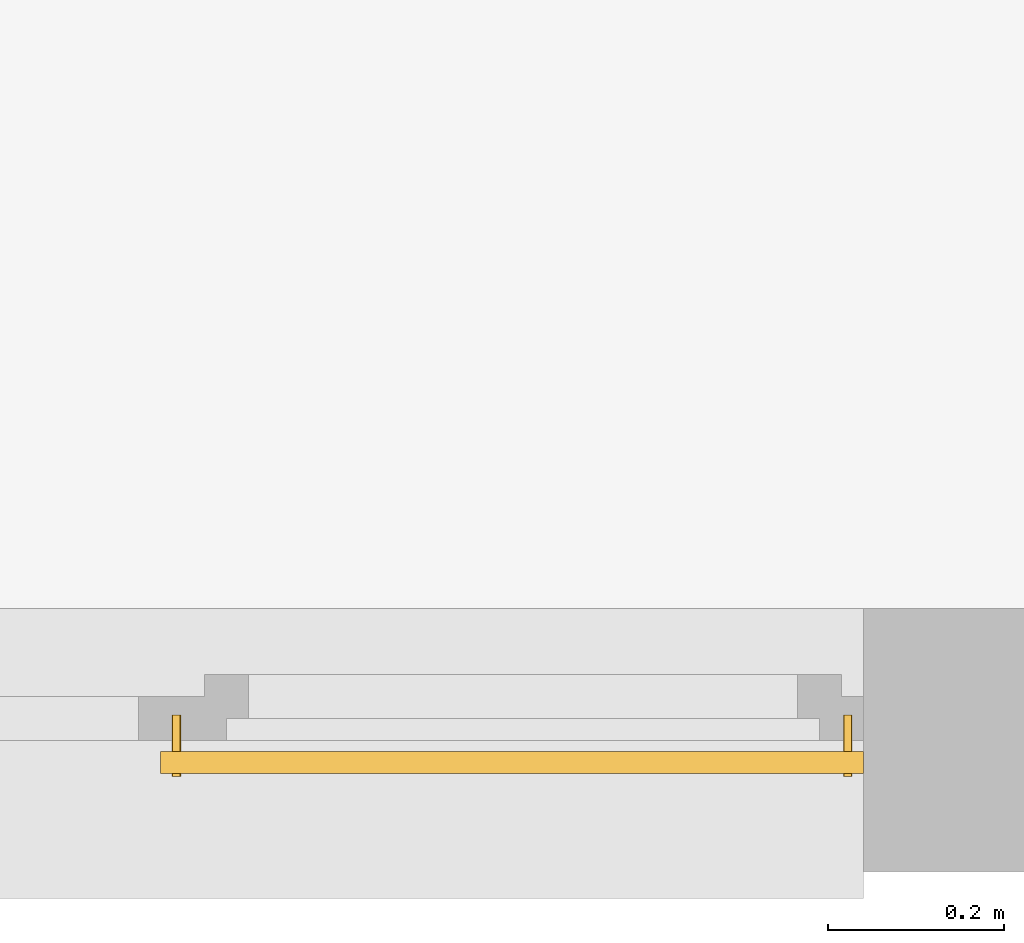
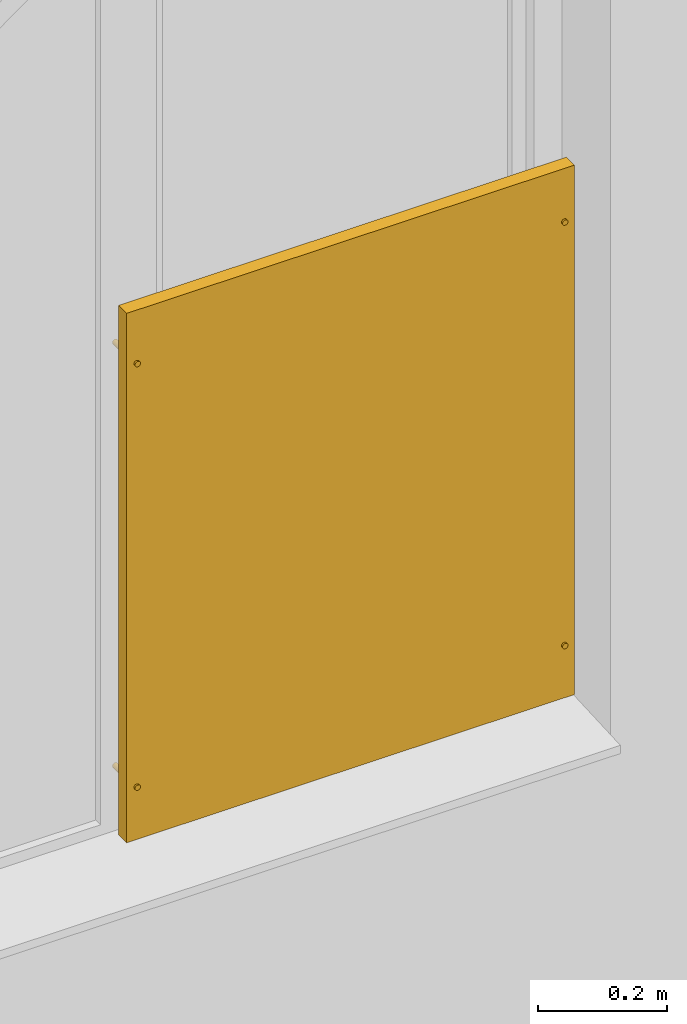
# One storey, part 5 of 8: 1 railing.
"""IFC2X3 building model written with IfcOpenShell, lengths in millimetres."""

import ifcopenshell
import ifcopenshell.guid

model = None  # the IFC model being written
_history = None  # IfcOwnerHistory: only IFC2X3 demands one
_inside = {}  # id of a spatial element -> (the spatial element, [elements in it])
_under = {}  # id of a project, library or spatial element -> (it, [spatial elements below it])
_declared = {}  # id of a project -> (the project, [libraries it declares])
_typed = {}  # id of a type object -> (the type object, [elements of that type])
_made_of = {}  # id of a material, layer set ... -> (it, [elements and type objects made of it])


def new_model(schema):
    """Start an empty IFC model of exactly this schema.

    Asked for "IFC4X3", IfcOpenShell would pick the latest addendum, in which some entities
    have other attributes; the version numbers below select the first issue.
    IFC2X3 requires an IfcOwnerHistory on every rooted entity: one is made here for all.
    """
    global model, _history
    if schema == "IFC4X3":
        model = ifcopenshell.file(schema_version=(4, 3, 0, 0))
    else:
        model = ifcopenshell.file(schema=schema)
    _inside.clear()
    _under.clear()
    _declared.clear()
    _typed.clear()
    _made_of.clear()
    _history = None
    if model.schema == "IFC2X3":
        org = make("IfcOrganization", Name="unknown")
        user = make(
            "IfcPersonAndOrganization",
            ThePerson=make("IfcPerson", FamilyName="unknown"),
            TheOrganization=org,
        )
        app = make(
            "IfcApplication",
            ApplicationDeveloper=org,
            Version="unknown",
            ApplicationFullName="unknown",
            ApplicationIdentifier="unknown",
        )
        _history = make(
            "IfcOwnerHistory",
            OwningUser=user,
            OwningApplication=app,
            ChangeAction="ADDED",
            CreationDate=0,
        )
    return model


def make(cls, **values):
    """One entity of the class cls with the attributes given. An attribute that is None is left unset."""
    return model.create_entity(
        cls, **{name: value for name, value in values.items() if value is not None}
    )


def entity(cls, *values):
    """Any entity or typed value of the class cls, its attributes in the order of the schema. None: left unset."""
    e = model.create_entity(cls)
    for i, value in enumerate(values):
        if value is not None:
            e[i] = value
    return e


def rooted(cls, **values):
    """An entity with a GlobalId (a new one), such as an element, a storey or a relation."""
    return make(cls, GlobalId=ifcopenshell.guid.new(), OwnerHistory=_history, **values)


def si_unit(unit_type, name, prefix=None):
    """IfcSIUnit, for example si_unit("LENGTHUNIT", "METRE", prefix="MILLI")."""
    return make("IfcSIUnit", UnitType=unit_type, Prefix=prefix, Name=name)


def converted_unit(unit_type, name, factor, base, dimensions=None, offset=None):
    """IfcConversionBasedUnit, such as the inch: factor (a typed value) times the base unit."""
    return make(
        "IfcConversionBasedUnit"
        if offset is None
        else "IfcConversionBasedUnitWithOffset",
        ConversionOffset=offset,
        Dimensions=None
        if dimensions is None
        else entity("IfcDimensionalExponents", *dimensions),
        UnitType=unit_type,
        Name=name,
        ConversionFactor=make(
            "IfcMeasureWithUnit", ValueComponent=factor, UnitComponent=base
        ),
    )


def derived_unit(unit_type, elements):
    """IfcDerivedUnit: a product of units, each with its exponent."""
    return make(
        "IfcDerivedUnit",
        Elements=[
            make("IfcDerivedUnitElement", Unit=unit, Exponent=power)
            for unit, power in elements
        ],
        UnitType=unit_type,
    )


def money_unit(currency):
    """IfcMonetaryUnit."""
    return make("IfcMonetaryUnit", Currency=currency)


def assignment(units):
    """IfcUnitAssignment: the units of a project."""
    return None if units is None else make("IfcUnitAssignment", Units=units)


def point(xyz):
    """IfcCartesianPoint."""
    return None if xyz is None else make("IfcCartesianPoint", Coordinates=xyz)


def direction(xyz):
    """IfcDirection."""
    return None if xyz is None else make("IfcDirection", DirectionRatios=xyz)


def frame(location, z_axis=None, x_axis=None):
    """IfcAxis2Placement3D, a coordinate frame: its origin and axes. An axis left out is left unset."""
    return make(
        "IfcAxis2Placement3D",
        Location=point(location),
        Axis=direction(z_axis),
        RefDirection=direction(x_axis),
    )


def origin_with_axes():
    """The frame at (0, 0, 0) with the z axis (0, 0, 1) and the x axis (1, 0, 0) written out."""
    return frame((0.0, 0.0, 0.0), z_axis=(0.0, 0.0, 1.0), x_axis=(1.0, 0.0, 0.0))


def place(relative_to, where):
    """IfcLocalPlacement: puts the frame where relative to a parent placement (None: the world)."""
    return make(
        "IfcLocalPlacement", PlacementRelTo=relative_to, RelativePlacement=where
    )


def context(
    kind, dimensions, precision=None, world=None, true_north=None, identifier=None
):
    """IfcGeometricRepresentationContext, for example the 3D "Model" context."""
    return make(
        "IfcGeometricRepresentationContext",
        ContextIdentifier=identifier,
        ContextType=kind,
        CoordinateSpaceDimension=dimensions,
        Precision=precision,
        WorldCoordinateSystem=world,
        TrueNorth=true_north,
    )


def subcontext(parent, identifier, kind, view, scale=None):
    """IfcGeometricRepresentationSubContext, for example "Body" below "Model"."""
    return make(
        "IfcGeometricRepresentationSubContext",
        ContextIdentifier=identifier,
        ContextType=kind,
        ParentContext=parent,
        TargetScale=scale,
        TargetView=view,
    )


def project(units=None, contexts=None):
    """IfcProject with its units and contexts."""
    return rooted(
        "IfcProject",
        Name="project",
        RepresentationContexts=contexts,
        UnitsInContext=assignment(units),
    )


def spatial(cls, under=None, at=None, **own):
    """A site, building, storey or space (cls), placed at a placement, below another one or the project."""
    s = rooted(cls, ObjectPlacement=at, **own)
    if under is not None:
        _under.setdefault(under.id(), (under, []))[1].append(s)
    return s


def faces_of(points, faces, orient=None, outer=None):
    """IfcFace entities. A face is a list of loops; a loop is a list of indices into points, from 0.

    orient and outer hold one flag for each loop. By default every Orientation is true, the
    first loop of a face is its IfcFaceOuterBound and the others are IfcFaceBound.
    """
    made = []
    for i, loops in enumerate(faces):
        bounds = []
        for j, loop in enumerate(loops):
            is_outer = j == 0 if outer is None else outer[i][j]
            bounds.append(
                make(
                    "IfcFaceOuterBound" if is_outer else "IfcFaceBound",
                    Bound=make("IfcPolyLoop", Polygon=[points[k] for k in loop]),
                    Orientation=True if orient is None else orient[i][j],
                )
            )
        made.append(make("IfcFace", Bounds=bounds))
    return made


def faceted_brep(points, faces, orient=None, outer=None, voids=None):
    """IfcFacetedBrep: a solid bounded by flat faces; with voids (closed shells), ...WithVoids."""
    shared = [point(p) for p in points]
    hull = make("IfcClosedShell", CfsFaces=faces_of(shared, faces, orient, outer))
    if voids is None:
        return make("IfcFacetedBrep", Outer=hull)
    return make(
        "IfcFacetedBrepWithVoids",
        Outer=hull,
        Voids=[
            make(cls, CfsFaces=faces_of(shared, fs, o, b)) for cls, fs, o, b in voids
        ],
    )


def shape(context_of_items, identifier, shape_type, items):
    """IfcShapeRepresentation: the items that make up one representation, for example the "Body"."""
    return make(
        "IfcShapeRepresentation",
        ContextOfItems=context_of_items,
        RepresentationIdentifier=identifier,
        RepresentationType=shape_type,
        Items=items,
    )


def material(Name=None, Category=None):
    """IfcMaterial."""
    return make("IfcMaterial", Name=Name, Category=Category)


def material_list(materials):
    """IfcMaterialList."""
    return make("IfcMaterialList", Materials=materials)


def made_of(thing, what):
    """Note that an element or type object is made of a material, layer set ...; save() writes the relation."""
    if what is not None:
        _made_of.setdefault(what.id(), (what, []))[1].append(thing)
    return thing


def type_object(cls, material=None, **own):
    """A type object (cls), such as IfcWallType, which elements share."""
    return made_of(rooted(cls, **own), material)


def element(
    cls,
    number,
    at=None,
    inside=None,
    cuts=None,
    type_object=None,
    material=None,
    context=None,
    identifier="Body",
    shape_type=None,
    held_by="IfcProductDefinitionShape",
    body=None,
    shapes=None,
    **own,
):
    """One element of the class cls, such as IfcWall. Its Tag is "e" and its number.

    at: its placement. inside: the storey or other place that contains it. cuts: it is an
    opening in that element (IfcRelVoidsElement). A single representation is given by context,
    identifier, shape_type and body (its items); several are given by shapes. held_by: the class
    of the entity that holds the representations. save() writes the other relations.
    """
    e = rooted(cls, Tag="e%d" % number, ObjectPlacement=at, **own)
    if body is not None:
        shapes = [shape(context, identifier, shape_type, body)]
    if shapes is not None:
        e.Representation = make(held_by, Representations=shapes)
    if inside is not None:
        _inside.setdefault(inside.id(), (inside, []))[1].append(e)
    if cuts is not None:
        rooted(
            "IfcRelVoidsElement", RelatingBuildingElement=cuts, RelatedOpeningElement=e
        )
    if type_object is not None:
        _typed.setdefault(type_object.id(), (type_object, []))[1].append(e)
    return made_of(e, material)


def aggregate(whole, parts):
    """IfcRelAggregates: a whole, such as a stair, and the parts it consists of."""
    return rooted("IfcRelAggregates", RelatingObject=whole, RelatedObjects=parts)


def save(model, path):
    """Write the relations noted so far, then the file.

    IfcRelAggregates (storeys below a building ...), IfcRelContainedInSpatialStructure (elements
    in a storey), IfcRelDefinesByType, IfcRelAssociatesMaterial and IfcRelDeclares: one each for
    every whole, place, type object, material and project.
    """
    for whole, parts in _under.values():
        aggregate(whole, parts)
    for where, things in _inside.values():
        rooted(
            "IfcRelContainedInSpatialStructure",
            RelatedElements=things,
            RelatingStructure=where,
        )
    for kind, things in _typed.values():
        rooted("IfcRelDefinesByType", RelatedObjects=things, RelatingType=kind)
    for what, things in _made_of.values():
        rooted("IfcRelAssociatesMaterial", RelatedObjects=things, RelatingMaterial=what)
    for by, libraries in _declared.values():
        rooted("IfcRelDeclares", RelatingContext=by, RelatedDefinitions=libraries)
    model.write(path)


model = new_model("IFC2X3")

# Units and contexts
model_context = context("Model", 3, precision=1e-05, world=origin_with_axes(), true_north=direction((0.0, 1.0)))
body_context = subcontext(model_context, "Body", "Model", "MODEL_VIEW")
ifc_project = project(units=[si_unit("LENGTHUNIT", "METRE", prefix="MILLI"), si_unit("AREAUNIT", "SQUARE_METRE"), si_unit("VOLUMEUNIT", "CUBIC_METRE"), converted_unit("PLANEANGLEUNIT", "DEGREE", entity("IfcPlaneAngleMeasure", 0.0174532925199), si_unit("PLANEANGLEUNIT", "RADIAN"), dimensions=[0, 0, 0, 0, 0, 0, 0]), si_unit("SOLIDANGLEUNIT", "STERADIAN"), money_unit("USD"), converted_unit("TIMEUNIT", "Year", entity("IfcTimeMeasure", 31556926.0), si_unit("TIMEUNIT", "SECOND"), dimensions=[0, 0, 1, 0, 0, 0, 0]), si_unit("MASSUNIT", "GRAM", prefix="KILO"), si_unit("THERMODYNAMICTEMPERATUREUNIT", "DEGREE_CELSIUS"), si_unit("LUMINOUSINTENSITYUNIT", "LUMEN"), si_unit("ENERGYUNIT", "JOULE", prefix="MEGA"), derived_unit("THERMALCONDUCTANCEUNIT", [(si_unit("POWERUNIT", "WATT"), 1), (si_unit("LENGTHUNIT", "METRE"), -1), (si_unit("THERMODYNAMICTEMPERATUREUNIT", "KELVIN"), -1)]), derived_unit("SPECIFICHEATCAPACITYUNIT", [(si_unit("ENERGYUNIT", "JOULE"), 1), (si_unit("MASSUNIT", "GRAM", prefix="KILO"), -1), (si_unit("THERMODYNAMICTEMPERATUREUNIT", "KELVIN"), -1)]), derived_unit("MASSDENSITYUNIT", [(si_unit("MASSUNIT", "GRAM", prefix="KILO"), 1), (si_unit("VOLUMEUNIT", "CUBIC_METRE"), -1)])], contexts=[model_context])

# Site, building, storey
site_placement = place(None, origin_with_axes())
site = spatial("IfcSite", under=ifc_project, at=site_placement, Name="Site", CompositionType="ELEMENT")
building_placement = place(site_placement, origin_with_axes())
building = spatial("IfcBuilding", under=site, at=building_placement, Name="Building", CompositionType="ELEMENT")
storey_placement = place(building_placement, origin_with_axes())
storey = spatial("IfcBuildingStorey", under=building, at=storey_placement, Name="Ground Floor", CompositionType="ELEMENT", Elevation=0.0)

# Railing
ifc_material = material(Name="Aluminium")
ifc_material_list = material_list([ifc_material, ifc_material, ifc_material, ifc_material, ifc_material, ifc_material])
railing_type = type_object("IfcRailingType", Name="Railing Type", PredefinedType="NOTDEFINED")
railing_placement = place(storey_placement, frame((-20307.1700511, 1857.32727174, 530.0), z_axis=(0.0, 0.0, 1.0), x_axis=(0.0, 1.0, 0.0)))
element("IfcRailing", 1, at=railing_placement, inside=storey, type_object=railing_type, material=ifc_material_list, Name="F-Line NORDKAPP 1,0m", PredefinedType="NOTDEFINED", context=body_context, shape_type="Brep", body=[
    faceted_brep([(-29.0, 791.5, 991.5), (-29.0, 791.5, 8.5), (-29.0, 8.5, 8.5), (-29.0, 8.5, 991.5), (-21.0, 791.5, 991.5), (-21.0, 791.5, 8.5), (-21.0, 8.5, 8.5), (-21.0, 8.5, 991.5)], [[[0, 1, 2, 3]], [[1, 0, 4, 5]], [[6, 2, 1, 5]], [[7, 3, 2, 6]], [[0, 3, 7, 4]], [[6, 5, 4, 7]]]),
    faceted_brep([(-41.0, 22.9240387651, 100.868240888), (29.0, 22.9240387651, 100.868240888), (29.0, 22.9240387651, 99.1317591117), (-41.0, 22.9240387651, 99.1317591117), (-41.0, 22.6984631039, 101.710100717), (29.0, 22.6984631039, 101.710100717), (29.0, 22.3301270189, 102.5), (29.0, 21.8302222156, 103.213938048), (29.0, 21.2139380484, 103.830222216), (29.0, 20.5, 104.330127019), (29.0, 19.7101007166, 104.698463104), (29.0, 18.8682408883, 104.924038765), (29.0, 18.0, 105.0), (29.0, 17.1317591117, 104.924038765), (29.0, 16.2898992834, 104.698463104), (29.0, 15.5, 104.330127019), (29.0, 14.7860619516, 103.830222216), (29.0, 14.1697777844, 103.213938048), (29.0, 13.6698729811, 102.5), (29.0, 13.3015368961, 101.710100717), (29.0, 13.0759612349, 100.868240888), (29.0, 13.0, 100.0), (29.0, 13.0759612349, 99.1317591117), (29.0, 13.3015368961, 98.2898992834), (29.0, 13.6698729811, 97.5), (29.0, 14.1697777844, 96.7860619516), (29.0, 14.7860619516, 96.1697777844), (29.0, 15.5, 95.6698729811), (29.0, 16.2898992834, 95.3015368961), (29.0, 17.1317591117, 95.0759612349), (29.0, 18.0, 95.0), (29.0, 18.8682408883, 95.0759612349), (29.0, 19.7101007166, 95.3015368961), (29.0, 20.5, 95.6698729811), (29.0, 21.2139380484, 96.1697777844), (29.0, 21.8302222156, 96.7860619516), (29.0, 22.3301270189, 97.5), (29.0, 22.6984631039, 98.2898992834), (-41.0, 22.6984631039, 98.2898992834), (-41.0, 22.3301270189, 97.5), (-41.0, 21.8302222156, 96.7860619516), (-41.0, 21.2139380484, 96.1697777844), (-41.0, 20.5, 95.6698729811), (-41.0, 19.7101007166, 95.3015368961), (-41.0, 18.8682408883, 95.0759612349), (-41.0, 18.0, 95.0), (-41.0, 17.1317591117, 95.0759612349), (-41.0, 16.2898992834, 95.3015368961), (-41.0, 15.5, 95.6698729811), (-41.0, 14.7860619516, 96.1697777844), (-41.0, 14.1697777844, 96.7860619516), (-41.0, 13.6698729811, 97.5), (-41.0, 13.3015368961, 98.2898992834), (-41.0, 13.0759612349, 99.1317591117), (-41.0, 13.0, 100.0), (-41.0, 13.0759612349, 100.868240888), (-41.0, 13.3015368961, 101.710100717), (-41.0, 13.6698729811, 102.5), (-41.0, 14.1697777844, 103.213938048), (-41.0, 14.7860619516, 103.830222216), (-41.0, 15.5, 104.330127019), (-41.0, 16.2898992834, 104.698463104), (-41.0, 17.1317591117, 104.924038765), (-41.0, 18.0, 105.0), (-41.0, 18.8682408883, 104.924038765), (-41.0, 19.7101007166, 104.698463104), (-41.0, 20.5, 104.330127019), (-41.0, 21.2139380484, 103.830222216), (-41.0, 21.8302222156, 103.213938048), (-41.0, 22.3301270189, 102.5)], [[[0, 1, 2, 3]], [[4, 5, 1, 0]], [[1, 5, 6, 7, 8, 9, 10, 11, 12, 13, 14, 15, 16, 17, 18, 19, 20, 21, 22, 23, 24, 25, 26, 27, 28, 29, 30, 31, 32, 33, 34, 35, 36, 37, 2]], [[3, 2, 37, 38]], [[0, 3, 38, 39, 40, 41, 42, 43, 44, 45, 46, 47, 48, 49, 50, 51, 52, 53, 54, 55, 56, 57, 58, 59, 60, 61, 62, 63, 64, 65, 66, 67, 68, 69, 4]], [[69, 6, 5, 4]], [[68, 7, 6, 69]], [[67, 8, 7, 68]], [[66, 9, 8, 67]], [[65, 10, 9, 66]], [[64, 11, 10, 65]], [[63, 12, 11, 64]], [[62, 13, 12, 63]], [[61, 14, 13, 62]], [[60, 15, 14, 61]], [[59, 16, 15, 60]], [[58, 17, 16, 59]], [[57, 18, 17, 58]], [[56, 19, 18, 57]], [[55, 20, 19, 56]], [[54, 21, 20, 55]], [[53, 22, 21, 54]], [[52, 23, 22, 53]], [[51, 24, 23, 52]], [[50, 25, 24, 51]], [[49, 26, 25, 50]], [[48, 27, 26, 49]], [[47, 28, 27, 48]], [[46, 29, 28, 47]], [[45, 30, 29, 46]], [[44, 31, 30, 45]], [[43, 32, 31, 44]], [[42, 33, 32, 43]], [[41, 34, 33, 42]], [[40, 35, 34, 41]], [[39, 36, 35, 40]], [[38, 37, 36, 39]]]),
    faceted_brep([(-41.0, 22.9240387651, 900.868240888), (29.0, 22.9240387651, 900.868240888), (29.0, 22.9240387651, 899.131759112), (-41.0, 22.9240387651, 899.131759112), (-41.0, 22.6984631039, 901.710100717), (29.0, 22.6984631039, 901.710100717), (29.0, 22.3301270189, 902.5), (29.0, 21.8302222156, 903.213938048), (29.0, 21.2139380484, 903.830222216), (29.0, 20.5, 904.330127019), (29.0, 19.7101007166, 904.698463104), (29.0, 18.8682408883, 904.924038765), (29.0, 18.0, 905.0), (29.0, 17.1317591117, 904.924038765), (29.0, 16.2898992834, 904.698463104), (29.0, 15.5, 904.330127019), (29.0, 14.7860619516, 903.830222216), (29.0, 14.1697777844, 903.213938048), (29.0, 13.6698729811, 902.5), (29.0, 13.3015368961, 901.710100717), (29.0, 13.0759612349, 900.868240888), (29.0, 13.0, 900.0), (29.0, 13.0759612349, 899.131759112), (29.0, 13.3015368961, 898.289899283), (29.0, 13.6698729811, 897.5), (29.0, 14.1697777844, 896.786061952), (29.0, 14.7860619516, 896.169777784), (29.0, 15.5, 895.669872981), (29.0, 16.2898992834, 895.301536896), (29.0, 17.1317591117, 895.075961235), (29.0, 18.0, 895.0), (29.0, 18.8682408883, 895.075961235), (29.0, 19.7101007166, 895.301536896), (29.0, 20.5, 895.669872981), (29.0, 21.2139380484, 896.169777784), (29.0, 21.8302222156, 896.786061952), (29.0, 22.3301270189, 897.5), (29.0, 22.6984631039, 898.289899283), (-41.0, 22.6984631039, 898.289899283), (-41.0, 22.3301270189, 897.5), (-41.0, 21.8302222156, 896.786061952), (-41.0, 21.2139380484, 896.169777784), (-41.0, 20.5, 895.669872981), (-41.0, 19.7101007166, 895.301536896), (-41.0, 18.8682408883, 895.075961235), (-41.0, 18.0, 895.0), (-41.0, 17.1317591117, 895.075961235), (-41.0, 16.2898992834, 895.301536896), (-41.0, 15.5, 895.669872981), (-41.0, 14.7860619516, 896.169777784), (-41.0, 14.1697777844, 896.786061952), (-41.0, 13.6698729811, 897.5), (-41.0, 13.3015368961, 898.289899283), (-41.0, 13.0759612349, 899.131759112), (-41.0, 13.0, 900.0), (-41.0, 13.0759612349, 900.868240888), (-41.0, 13.3015368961, 901.710100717), (-41.0, 13.6698729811, 902.5), (-41.0, 14.1697777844, 903.213938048), (-41.0, 14.7860619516, 903.830222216), (-41.0, 15.5, 904.330127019), (-41.0, 16.2898992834, 904.698463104), (-41.0, 17.1317591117, 904.924038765), (-41.0, 18.0, 905.0), (-41.0, 18.8682408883, 904.924038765), (-41.0, 19.7101007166, 904.698463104), (-41.0, 20.5, 904.330127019), (-41.0, 21.2139380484, 903.830222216), (-41.0, 21.8302222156, 903.213938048), (-41.0, 22.3301270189, 902.5)], [[[0, 1, 2, 3]], [[4, 5, 1, 0]], [[1, 5, 6, 7, 8, 9, 10, 11, 12, 13, 14, 15, 16, 17, 18, 19, 20, 21, 22, 23, 24, 25, 26, 27, 28, 29, 30, 31, 32, 33, 34, 35, 36, 37, 2]], [[3, 2, 37, 38]], [[0, 3, 38, 39, 40, 41, 42, 43, 44, 45, 46, 47, 48, 49, 50, 51, 52, 53, 54, 55, 56, 57, 58, 59, 60, 61, 62, 63, 64, 65, 66, 67, 68, 69, 4]], [[69, 6, 5, 4]], [[68, 7, 6, 69]], [[67, 8, 7, 68]], [[66, 9, 8, 67]], [[65, 10, 9, 66]], [[64, 11, 10, 65]], [[63, 12, 11, 64]], [[62, 13, 12, 63]], [[61, 14, 13, 62]], [[60, 15, 14, 61]], [[59, 16, 15, 60]], [[58, 17, 16, 59]], [[57, 18, 17, 58]], [[56, 19, 18, 57]], [[55, 20, 19, 56]], [[54, 21, 20, 55]], [[53, 22, 21, 54]], [[52, 23, 22, 53]], [[51, 24, 23, 52]], [[50, 25, 24, 51]], [[49, 26, 25, 50]], [[48, 27, 26, 49]], [[47, 28, 27, 48]], [[46, 29, 28, 47]], [[45, 30, 29, 46]], [[44, 31, 30, 45]], [[43, 32, 31, 44]], [[42, 33, 32, 43]], [[41, 34, 33, 42]], [[40, 35, 34, 41]], [[39, 36, 35, 40]], [[38, 37, 36, 39]]]),
    faceted_brep([(-41.0, 786.924038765, 100.868240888), (29.0, 786.924038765, 100.868240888), (29.0, 786.924038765, 99.1317591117), (-41.0, 786.924038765, 99.1317591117), (-41.0, 786.698463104, 101.710100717), (29.0, 786.698463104, 101.710100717), (29.0, 786.330127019, 102.5), (29.0, 785.830222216, 103.213938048), (29.0, 785.213938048, 103.830222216), (29.0, 784.5, 104.330127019), (29.0, 783.710100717, 104.698463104), (29.0, 782.868240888, 104.924038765), (29.0, 782.0, 105.0), (29.0, 781.131759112, 104.924038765), (29.0, 780.289899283, 104.698463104), (29.0, 779.5, 104.330127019), (29.0, 778.786061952, 103.830222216), (29.0, 778.169777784, 103.213938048), (29.0, 777.669872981, 102.5), (29.0, 777.301536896, 101.710100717), (29.0, 777.075961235, 100.868240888), (29.0, 777.0, 100.0), (29.0, 777.075961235, 99.1317591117), (29.0, 777.301536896, 98.2898992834), (29.0, 777.669872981, 97.5), (29.0, 778.169777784, 96.7860619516), (29.0, 778.786061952, 96.1697777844), (29.0, 779.5, 95.6698729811), (29.0, 780.289899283, 95.3015368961), (29.0, 781.131759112, 95.0759612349), (29.0, 782.0, 95.0), (29.0, 782.868240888, 95.0759612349), (29.0, 783.710100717, 95.3015368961), (29.0, 784.5, 95.6698729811), (29.0, 785.213938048, 96.1697777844), (29.0, 785.830222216, 96.7860619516), (29.0, 786.330127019, 97.5), (29.0, 786.698463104, 98.2898992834), (-41.0, 786.698463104, 98.2898992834), (-41.0, 786.330127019, 97.5), (-41.0, 785.830222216, 96.7860619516), (-41.0, 785.213938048, 96.1697777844), (-41.0, 784.5, 95.6698729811), (-41.0, 783.710100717, 95.3015368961), (-41.0, 782.868240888, 95.0759612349), (-41.0, 782.0, 95.0), (-41.0, 781.131759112, 95.0759612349), (-41.0, 780.289899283, 95.3015368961), (-41.0, 779.5, 95.6698729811), (-41.0, 778.786061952, 96.1697777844), (-41.0, 778.169777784, 96.7860619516), (-41.0, 777.669872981, 97.5), (-41.0, 777.301536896, 98.2898992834), (-41.0, 777.075961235, 99.1317591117), (-41.0, 777.0, 100.0), (-41.0, 777.075961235, 100.868240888), (-41.0, 777.301536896, 101.710100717), (-41.0, 777.669872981, 102.5), (-41.0, 778.169777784, 103.213938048), (-41.0, 778.786061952, 103.830222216), (-41.0, 779.5, 104.330127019), (-41.0, 780.289899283, 104.698463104), (-41.0, 781.131759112, 104.924038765), (-41.0, 782.0, 105.0), (-41.0, 782.868240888, 104.924038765), (-41.0, 783.710100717, 104.698463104), (-41.0, 784.5, 104.330127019), (-41.0, 785.213938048, 103.830222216), (-41.0, 785.830222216, 103.213938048), (-41.0, 786.330127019, 102.5)], [[[0, 1, 2, 3]], [[4, 5, 1, 0]], [[1, 5, 6, 7, 8, 9, 10, 11, 12, 13, 14, 15, 16, 17, 18, 19, 20, 21, 22, 23, 24, 25, 26, 27, 28, 29, 30, 31, 32, 33, 34, 35, 36, 37, 2]], [[3, 2, 37, 38]], [[0, 3, 38, 39, 40, 41, 42, 43, 44, 45, 46, 47, 48, 49, 50, 51, 52, 53, 54, 55, 56, 57, 58, 59, 60, 61, 62, 63, 64, 65, 66, 67, 68, 69, 4]], [[69, 6, 5, 4]], [[68, 7, 6, 69]], [[67, 8, 7, 68]], [[66, 9, 8, 67]], [[65, 10, 9, 66]], [[64, 11, 10, 65]], [[63, 12, 11, 64]], [[62, 13, 12, 63]], [[61, 14, 13, 62]], [[60, 15, 14, 61]], [[59, 16, 15, 60]], [[58, 17, 16, 59]], [[57, 18, 17, 58]], [[56, 19, 18, 57]], [[55, 20, 19, 56]], [[54, 21, 20, 55]], [[53, 22, 21, 54]], [[52, 23, 22, 53]], [[51, 24, 23, 52]], [[50, 25, 24, 51]], [[49, 26, 25, 50]], [[48, 27, 26, 49]], [[47, 28, 27, 48]], [[46, 29, 28, 47]], [[45, 30, 29, 46]], [[44, 31, 30, 45]], [[43, 32, 31, 44]], [[42, 33, 32, 43]], [[41, 34, 33, 42]], [[40, 35, 34, 41]], [[39, 36, 35, 40]], [[38, 37, 36, 39]]]),
    faceted_brep([(-41.0, 786.924038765, 900.868240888), (29.0, 786.924038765, 900.868240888), (29.0, 786.924038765, 899.131759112), (-41.0, 786.924038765, 899.131759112), (-41.0, 786.698463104, 901.710100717), (29.0, 786.698463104, 901.710100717), (29.0, 786.330127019, 902.5), (29.0, 785.830222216, 903.213938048), (29.0, 785.213938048, 903.830222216), (29.0, 784.5, 904.330127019), (29.0, 783.710100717, 904.698463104), (29.0, 782.868240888, 904.924038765), (29.0, 782.0, 905.0), (29.0, 781.131759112, 904.924038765), (29.0, 780.289899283, 904.698463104), (29.0, 779.5, 904.330127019), (29.0, 778.786061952, 903.830222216), (29.0, 778.169777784, 903.213938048), (29.0, 777.669872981, 902.5), (29.0, 777.301536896, 901.710100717), (29.0, 777.075961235, 900.868240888), (29.0, 777.0, 900.0), (29.0, 777.075961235, 899.131759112), (29.0, 777.301536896, 898.289899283), (29.0, 777.669872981, 897.5), (29.0, 778.169777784, 896.786061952), (29.0, 778.786061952, 896.169777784), (29.0, 779.5, 895.669872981), (29.0, 780.289899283, 895.301536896), (29.0, 781.131759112, 895.075961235), (29.0, 782.0, 895.0), (29.0, 782.868240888, 895.075961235), (29.0, 783.710100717, 895.301536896), (29.0, 784.5, 895.669872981), (29.0, 785.213938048, 896.169777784), (29.0, 785.830222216, 896.786061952), (29.0, 786.330127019, 897.5), (29.0, 786.698463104, 898.289899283), (-41.0, 786.698463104, 898.289899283), (-41.0, 786.330127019, 897.5), (-41.0, 785.830222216, 896.786061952), (-41.0, 785.213938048, 896.169777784), (-41.0, 784.5, 895.669872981), (-41.0, 783.710100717, 895.301536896), (-41.0, 782.868240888, 895.075961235), (-41.0, 782.0, 895.0), (-41.0, 781.131759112, 895.075961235), (-41.0, 780.289899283, 895.301536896), (-41.0, 779.5, 895.669872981), (-41.0, 778.786061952, 896.169777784), (-41.0, 778.169777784, 896.786061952), (-41.0, 777.669872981, 897.5), (-41.0, 777.301536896, 898.289899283), (-41.0, 777.075961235, 899.131759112), (-41.0, 777.0, 900.0), (-41.0, 777.075961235, 900.868240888), (-41.0, 777.301536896, 901.710100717), (-41.0, 777.669872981, 902.5), (-41.0, 778.169777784, 903.213938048), (-41.0, 778.786061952, 903.830222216), (-41.0, 779.5, 904.330127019), (-41.0, 780.289899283, 904.698463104), (-41.0, 781.131759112, 904.924038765), (-41.0, 782.0, 905.0), (-41.0, 782.868240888, 904.924038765), (-41.0, 783.710100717, 904.698463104), (-41.0, 784.5, 904.330127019), (-41.0, 785.213938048, 903.830222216), (-41.0, 785.830222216, 903.213938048), (-41.0, 786.330127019, 902.5)], [[[0, 1, 2, 3]], [[4, 5, 1, 0]], [[1, 5, 6, 7, 8, 9, 10, 11, 12, 13, 14, 15, 16, 17, 18, 19, 20, 21, 22, 23, 24, 25, 26, 27, 28, 29, 30, 31, 32, 33, 34, 35, 36, 37, 2]], [[3, 2, 37, 38]], [[0, 3, 38, 39, 40, 41, 42, 43, 44, 45, 46, 47, 48, 49, 50, 51, 52, 53, 54, 55, 56, 57, 58, 59, 60, 61, 62, 63, 64, 65, 66, 67, 68, 69, 4]], [[69, 6, 5, 4]], [[68, 7, 6, 69]], [[67, 8, 7, 68]], [[66, 9, 8, 67]], [[65, 10, 9, 66]], [[64, 11, 10, 65]], [[63, 12, 11, 64]], [[62, 13, 12, 63]], [[61, 14, 13, 62]], [[60, 15, 14, 61]], [[59, 16, 15, 60]], [[58, 17, 16, 59]], [[57, 18, 17, 58]], [[56, 19, 18, 57]], [[55, 20, 19, 56]], [[54, 21, 20, 55]], [[53, 22, 21, 54]], [[52, 23, 22, 53]], [[51, 24, 23, 52]], [[50, 25, 24, 51]], [[49, 26, 25, 50]], [[48, 27, 26, 49]], [[47, 28, 27, 48]], [[46, 29, 28, 47]], [[45, 30, 29, 46]], [[44, 31, 30, 45]], [[43, 32, 31, 44]], [[42, 33, 32, 43]], [[41, 34, 33, 42]], [[40, 35, 34, 41]], [[39, 36, 35, 40]], [[38, 37, 36, 39]]]),
    faceted_brep([(-12.5, 800.0, 0.0), (-37.5, 800.0, 0.0), (-37.5, 800.0, 1000.0), (-12.5, 800.0, 1000.0), (-12.5, 763.0, 37.0), (-21.0, 763.0, 37.0), (-21.0, 791.5, 8.5), (-29.0, 791.5, 8.5), (-29.0, 763.0, 37.0), (-37.5, 763.0, 37.0), (-37.5, 763.0, 963.0), (-37.5, 37.0, 963.0), (-37.5, 37.0, 37.0), (-37.5, 763.0, 37.0), (-37.5, 800.0, 0.0), (-37.5, 0.0, 0.0), (-37.5, 0.0, 1000.0), (-12.5, 0.0, 1000.0), (-12.5, 0.0, 0.0), (-12.5, 800.0, 0.0), (-12.5, 763.0, 37.0), (-12.5, 37.0, 37.0), (-12.5, 37.0, 963.0), (-12.5, 763.0, 963.0), (-21.0, 763.0, 963.0), (-21.0, 37.0, 963.0), (-21.0, 37.0, 37.0), (-21.0, 763.0, 37.0), (-21.0, 791.5, 8.5), (-21.0, 8.5, 8.5), (-21.0, 8.5, 991.5), (-21.0, 791.5, 991.5), (-29.0, 791.5, 991.5), (-29.0, 8.5, 991.5), (-29.0, 8.5, 8.5), (-29.0, 791.5, 8.5), (-29.0, 763.0, 37.0), (-29.0, 37.0, 37.0), (-29.0, 37.0, 963.0), (-29.0, 763.0, 963.0)], [[[0, 1, 2, 3]], [[0, 4, 5, 6, 7, 8, 9, 1]], [[1, 9, 10, 11, 12, 13, 14, 15, 16, 2]], [[3, 2, 16, 17]], [[4, 0, 3, 17, 18, 19, 20, 21, 22, 23]], [[5, 4, 23, 24]], [[6, 5, 24, 25, 26, 27, 28, 29, 30, 31]], [[7, 6, 31, 32]], [[8, 7, 32, 33, 34, 35, 36, 37, 38, 39]], [[9, 8, 39, 10]], [[10, 39, 38, 11]], [[11, 38, 37, 12]], [[12, 37, 36, 13]], [[19, 14, 13, 36, 35, 28, 27, 20]], [[18, 15, 14, 19]], [[17, 16, 15, 18]], [[26, 21, 20, 27]], [[25, 22, 21, 26]], [[24, 23, 22, 25]], [[34, 29, 28, 35]], [[33, 30, 29, 34]], [[32, 31, 30, 33]]]),
])

save(model, "model.ifc")
